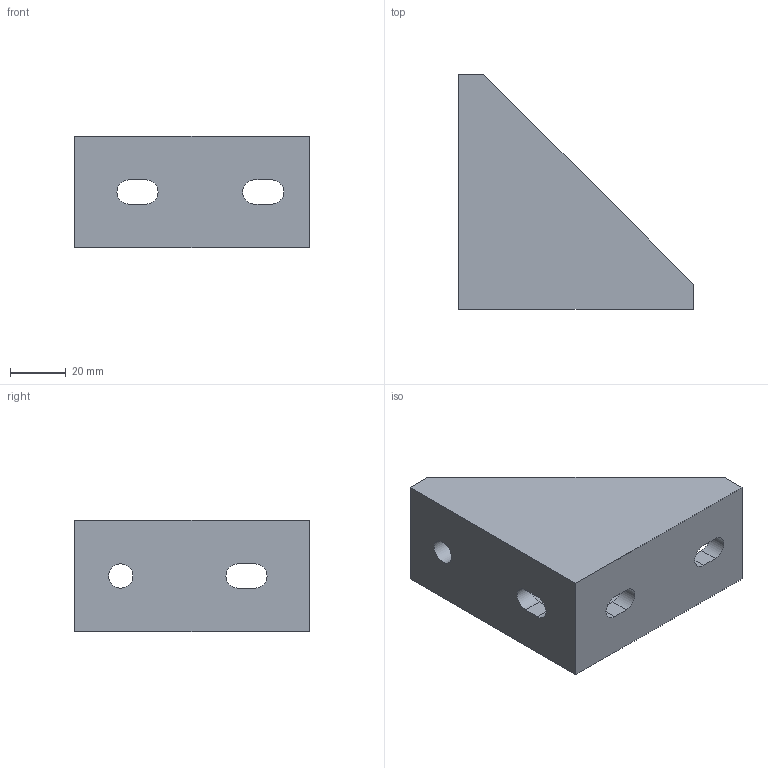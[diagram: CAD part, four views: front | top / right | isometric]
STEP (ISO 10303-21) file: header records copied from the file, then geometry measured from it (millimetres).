
FILE_DESCRIPTION (( 'STEP AP214' ), '1' );
FILE_NAME ('SL03004.step', '2024-12-03T16:31:02', ( '' ), ( '' ), 'SwSTEP 2.0', 'SolidWorks 2023', '' );
FILE_SCHEMA (( 'AUTOMOTIVE_DESIGN' ));
Length unit declared in the file: millimetre
Products named in the file (1): SL03004
Bounding box: 84 x 84 x 40 mm (x, y, z)
Volume: 67223.8 mm3; surface area: 27956.4 mm2
Topology: 1 solids, 1 shells, 28 faces, 78 edges, 52 vertices
Faces by surface type: plane 18, cylinder 10
Full cylindrical faces by diameter (mm): 8.7 x1
Entity records: 936 total; most frequent: CARTESIAN_POINT 158, DIRECTION 155, ORIENTED_EDGE 154, EDGE_CURVE 77, VECTOR 57, LINE 57, VERTEX_POINT 52, AXIS2_PLACEMENT_3D 49
